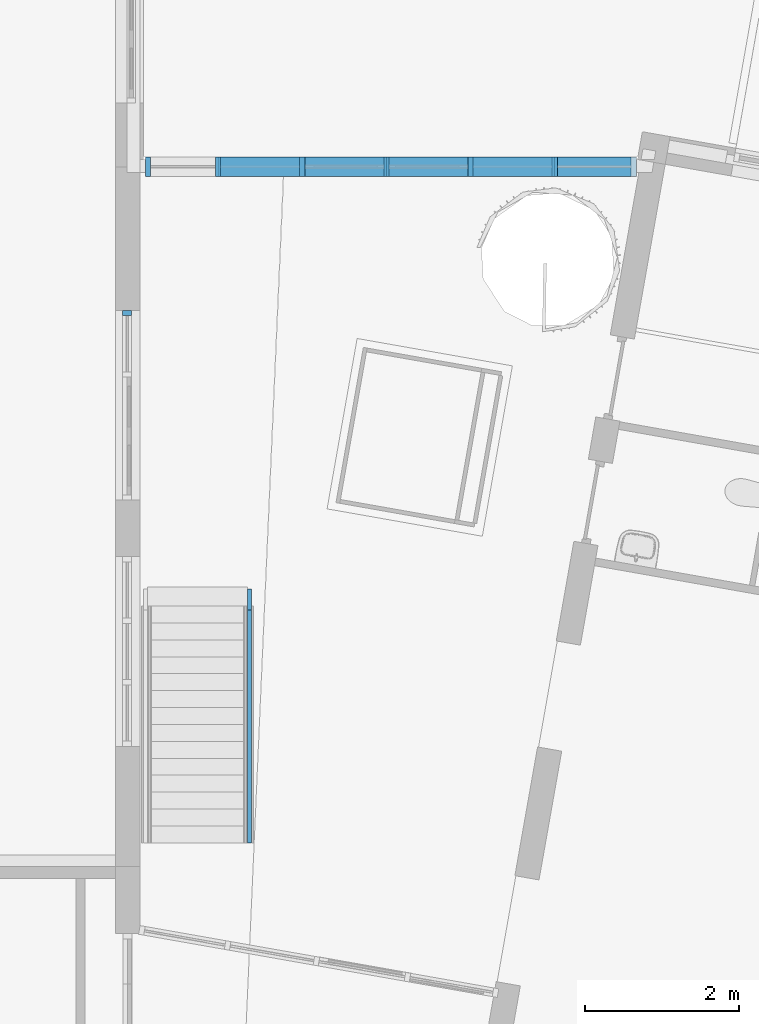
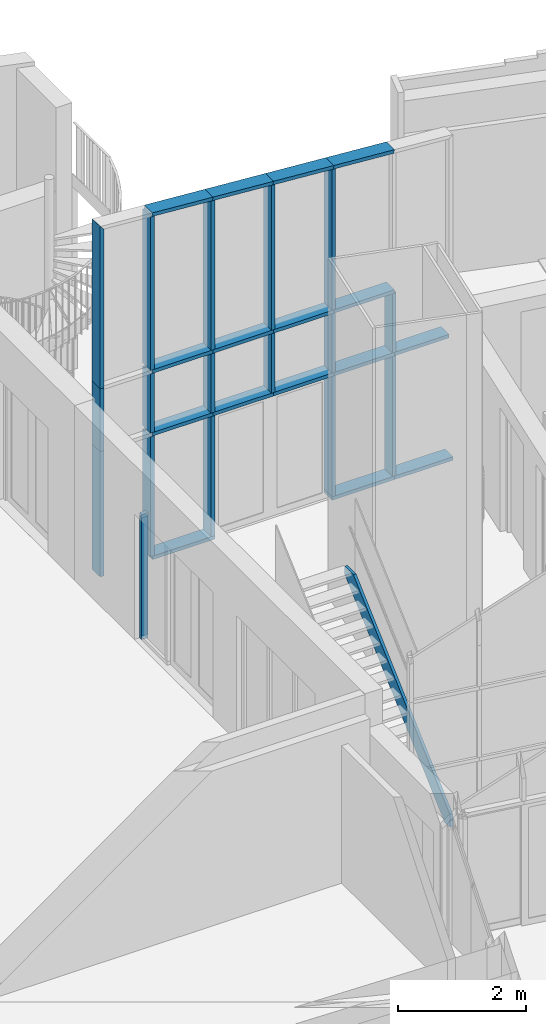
# One storey, part 5 of 21: 35 members, 3 elements without a shape of their own.
"""IFC2X3 building model written with IfcOpenShell, lengths in millimetres."""

from ifc_helpers import new_model, entity, si_unit, converted_unit, derived_unit, direction, frame, origin, origin_2d_with_axis, place, context, subcontext, project, spatial, polyline, rectangle, outline, extrude, clip, halfspace, bounded_halfspace, source, transform, mapped, material, type_object, type_shapes, element, aggregate, save


model = new_model("IFC2X3")

# Units and contexts
model_context = context("Model", 3, precision=0.01, world=origin(), true_north=direction((6.12303176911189e-17, 1.0)))
body_context = subcontext(model_context, "Body", "Model", "MODEL_VIEW")
ifc_project = project(units=[si_unit("LENGTHUNIT", "METRE", prefix="MILLI"), si_unit("AREAUNIT", "SQUARE_METRE"), si_unit("VOLUMEUNIT", "CUBIC_METRE"), converted_unit("PLANEANGLEUNIT", "DEGREE", entity("IfcRatioMeasure", 0.0174532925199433), si_unit("PLANEANGLEUNIT", "RADIAN"), dimensions=[0, 0, 0, 0, 0, 0, 0]), si_unit("MASSUNIT", "GRAM", prefix="KILO"), derived_unit("MASSDENSITYUNIT", [(si_unit("MASSUNIT", "GRAM", prefix="KILO"), 1), (si_unit("LENGTHUNIT", "METRE"), -3)]), si_unit("TIMEUNIT", "SECOND"), si_unit("FREQUENCYUNIT", "HERTZ"), si_unit("THERMODYNAMICTEMPERATUREUNIT", "DEGREE_CELSIUS"), derived_unit("THERMALTRANSMITTANCEUNIT", [(si_unit("MASSUNIT", "GRAM", prefix="KILO"), 1), (si_unit("THERMODYNAMICTEMPERATUREUNIT", "KELVIN"), -1), (si_unit("TIMEUNIT", "SECOND"), -3)]), derived_unit("VOLUMETRICFLOWRATEUNIT", [(si_unit("LENGTHUNIT", "METRE"), 3), (si_unit("TIMEUNIT", "SECOND"), -1)]), si_unit("ELECTRICCURRENTUNIT", "AMPERE"), si_unit("ELECTRICVOLTAGEUNIT", "VOLT"), si_unit("POWERUNIT", "WATT"), si_unit("FORCEUNIT", "NEWTON", prefix="KILO"), si_unit("ILLUMINANCEUNIT", "LUX"), si_unit("LUMINOUSFLUXUNIT", "LUMEN"), si_unit("LUMINOUSINTENSITYUNIT", "CANDELA"), derived_unit("USERDEFINED", [(si_unit("MASSUNIT", "GRAM", prefix="KILO"), -1), (si_unit("LENGTHUNIT", "METRE"), -2), (si_unit("TIMEUNIT", "SECOND"), 3), (si_unit("LUMINOUSFLUXUNIT", "LUMEN"), 1)]), derived_unit("LINEARVELOCITYUNIT", [(si_unit("LENGTHUNIT", "METRE"), 1), (si_unit("TIMEUNIT", "SECOND"), -1)]), si_unit("PRESSUREUNIT", "PASCAL"), derived_unit("USERDEFINED", [(si_unit("LENGTHUNIT", "METRE"), -2), (si_unit("MASSUNIT", "GRAM", prefix="KILO"), 1), (si_unit("TIMEUNIT", "SECOND"), -2)])], contexts=[model_context])

# Site, building, storey
site_placement = place(None, origin())
site = spatial("IfcSite", under=ifc_project, at=site_placement, Name="<Kadaster Gemeente>;<Kadaster nummer>;<Kadaster sectie>", CompositionType="ELEMENT")
building_placement = place(site_placement, origin())
building = spatial("IfcBuilding", under=site, at=building_placement, Name="JRCZ Middelburg", CompositionType="ELEMENT")
storey_placement = place(building_placement, origin())
storey = spatial("IfcBuildingStorey", under=building, at=storey_placement, Name="00 begane grond", CompositionType="ELEMENT", Elevation=0.0)

# Stair, member
stair_placement = place(storey_placement, origin())
stair = element("IfcStair", 1, at=stair_placement, inside=storey, Name="Assembled Stair:Stair", ObjectType="Assembled Stair:RBM_ST_houten trap", ShapeType="NOTDEFINED")
ifc_material_1 = material(Name="traphout")
member_type_1 = type_object("IfcMemberType", Name="Stringer:RBM_trapboom hout_300x50", PredefinedType="STRINGER")
member_1_placement = place(stair_placement, origin())
member_1 = element("IfcMember", 2, at=member_1_placement, type_object=member_type_1, material=ifc_material_1, Name="Assembled Stair:Stair:1742392 Stringer 2", ObjectType="Stringer:RBM_trapboom hout_300x50", context=body_context, shape_type="SweptSolid", body=[
    extrude(outline(polyline([(-1634.54613854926, -1514.04896495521), (-1457.91669169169, -1514.04896495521), (1665.45386145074, 1325.37881062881), (1665.45386145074, 1485.95103504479), (1396.10124588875, 1485.95103504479), (-1634.54613854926, -1269.18295080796), (-1634.54613854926, -1514.04896495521)])), frame((18768.0, 11945.153090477, 1514.04896495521), z_axis=(1.0, 0.0, 0.0), x_axis=(0.0, 1.0, 0.0)), (0.0, 0.0, 1.0), 49.9999999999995),
])
aggregate(stair, [member_1])

# Curtain wall, members
curtain_wall_type_1 = type_object("IfcCurtainWallType", Name="Curtain Wall:NLRS_32_CW_067x114", PredefinedType="NOTDEFINED")
curtain_wall_1_placement = place(storey_placement, origin())
curtain_wall_1 = element("IfcCurtainWall", 3, at=curtain_wall_1_placement, inside=storey, type_object=curtain_wall_type_1, Name="Curtain Wall:NLRS_32_CW_067x114", ObjectType="Curtain Wall:NLRS_32_CW_067x114")
ifc_material_2 = material(Name="RBM_i2_binnenkozijn")
member_type_2 = type_object("IfcMemberType", Name="32_CWM_067x114", PredefinedType="MEMBER")
shared_shape_1 = source(origin(), body_context, "Body", "SweptSolid", [
    extrude(rectangle(XDim=113.999999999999, YDim=67.0, at=origin_2d_with_axis()), frame((-33.5, 0.0, -2400.0), z_axis=(0.0, 0.0, 1.0), x_axis=(0.0, -1.0, 0.0)), (0.0, 0.0, 1.0), 2400.0),
])
type_shapes(member_type_2, [shared_shape_1])
member_2_placement = place(storey_placement, frame((17203.0, 17233.4999996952, 0.0), z_axis=(0.0, 0.0, -1.0), x_axis=(0.0, 1.0, 0.0)))
member_2 = element("IfcMember", 4, at=member_2_placement, type_object=member_type_2, material=ifc_material_2, Name="Rectangular Mullion:32_CWM_067x114", ObjectType="Rectangular Mullion:32_CWM_067x114", context=body_context, shape_type="MappedRepresentation", body=[
    mapped(shared_shape_1, transform((0.0, 0.0, 0.0), scale=1.0)),
])
member_type_3 = type_object("IfcMemberType", Name="32_CWM_067x114", PredefinedType="MEMBER")
shared_shape_2 = source(origin(), body_context, "Body", "SweptSolid", [
    extrude(rectangle(XDim=113.999999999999, YDim=67.0, at=origin_2d_with_axis()), frame((0.0, 0.0, -2266.0), z_axis=(0.0, 0.0, 1.0), x_axis=(0.0, -1.0, 0.0)), (0.0, 0.0, 1.0), 2266.0),
])
type_shapes(member_type_3, [shared_shape_2])
member_3_placement = place(storey_placement, frame((17203.0, 17200.0, 67.0), z_axis=(0.0, 0.0, -1.0), x_axis=(0.0, 1.0, 0.0)))
member_3 = element("IfcMember", 5, at=member_3_placement, type_object=member_type_3, material=ifc_material_2, Name="Rectangular Mullion:32_CWM_067x114", ObjectType="Rectangular Mullion:32_CWM_067x114", context=body_context, shape_type="MappedRepresentation", body=[
    mapped(shared_shape_2, transform((0.0, 0.0, 0.0), scale=1.0)),
])
aggregate(curtain_wall_1, [member_2, member_3])

curtain_wall_type_2 = type_object("IfcCurtainWallType", Name="Curtain Wall:Vliesgevel C", PredefinedType="NOTDEFINED")
curtain_wall_2_placement = place(storey_placement, origin())
curtain_wall_2 = element("IfcCurtainWall", 6, at=curtain_wall_2_placement, inside=storey, type_object=curtain_wall_type_2, Name="Curtain Wall:Vliesgevel C", ObjectType="Curtain Wall:Vliesgevel C")
ifc_material_3 = material(Name="RBM_a_kozijn licht")
member_type_4 = type_object("IfcMemberType", Name="31_CWM_067x114 vliesgevel", PredefinedType="MEMBER")
shared_shape_3 = source(origin(), body_context, "Body", "SweptSolid", [
    extrude(rectangle(XDim=250.0, YDim=67.0, at=origin_2d_with_axis()), frame((0.0, -57.0, -2299.5), z_axis=(0.0, 0.0, 1.0), x_axis=(0.0, -1.0, 0.0)), (0.0, 0.0, 1.0), 2299.5),
])
type_shapes(member_type_4, [shared_shape_3])
member_4_placement = place(storey_placement, frame((19481.1567335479, 19046.62338787, 67.0), z_axis=(0.0, 0.0, -1.0), x_axis=(1.0, 0.0, 0.0)))
member_4 = element("IfcMember", 7, at=member_4_placement, type_object=member_type_4, material=ifc_material_3, Name="Rectangular Mullion:31_CWM_067x114 vliesgevel", ObjectType="Rectangular Mullion:31_CWM_067x114 vliesgevel", context=body_context, shape_type="MappedRepresentation", body=[
    mapped(shared_shape_3, transform((0.0, 0.0, 0.0), scale=1.0)),
])
member_5_placement = place(storey_placement, frame((18386.4296349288, 19046.62338787, 67.0), z_axis=(0.0, 0.0, -1.0), x_axis=(1.0, 0.0, 0.0)))
member_5 = element("IfcMember", 8, at=member_5_placement, type_object=member_type_4, material=ifc_material_3, Name="Rectangular Mullion:31_CWM_067x114 vliesgevel", ObjectType="Rectangular Mullion:31_CWM_067x114 vliesgevel", context=body_context, shape_type="MappedRepresentation", body=[
    mapped(shared_shape_3, transform((0.0, 0.0, 0.0), scale=1.0)),
])
member_6_placement = place(storey_placement, frame((21670.6109307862, 19046.62338787, 67.0), z_axis=(0.0, 0.0, -1.0), x_axis=(1.0, 0.0, 0.0)))
member_6 = element("IfcMember", 9, at=member_6_placement, type_object=member_type_4, material=ifc_material_3, Name="Rectangular Mullion:31_CWM_067x114 vliesgevel", ObjectType="Rectangular Mullion:31_CWM_067x114 vliesgevel", context=body_context, shape_type="MappedRepresentation", body=[
    mapped(shared_shape_3, transform((0.0, 0.0, 0.0), scale=1.0)),
])
member_7_placement = place(storey_placement, frame((22765.3380294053, 19046.62338787, 67.0), z_axis=(0.0, 0.0, -1.0), x_axis=(1.0, 0.0, 0.0)))
member_7 = element("IfcMember", 10, at=member_7_placement, type_object=member_type_4, material=ifc_material_3, Name="Rectangular Mullion:31_CWM_067x114 vliesgevel", ObjectType="Rectangular Mullion:31_CWM_067x114 vliesgevel", context=body_context, shape_type="MappedRepresentation", body=[
    mapped(shared_shape_3, transform((0.0, 0.0, 0.0), scale=1.0)),
])
member_type_5 = type_object("IfcMemberType", Name="31_CWM_067x114 vliesgevel", PredefinedType="MEMBER")
shared_shape_4 = source(origin(), body_context, "Body", "SweptSolid", [
    extrude(rectangle(XDim=250.0, YDim=67.0, at=origin_2d_with_axis()), frame((-33.5, -57.0, -1128.22709861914), z_axis=(0.0, 0.0, 1.0), x_axis=(0.0, -1.0, 0.0)), (0.0, 0.0, 1.0), 1128.22709861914),
])
type_shapes(member_type_5, [shared_shape_4])
member_8_placement = place(storey_placement, frame((18386.4296349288, 19046.62338787, 0.0), z_axis=(-1.0, 0.0, 0.0), x_axis=(0.0, 0.0, -1.0)))
member_8 = element("IfcMember", 11, at=member_8_placement, type_object=member_type_5, material=ifc_material_3, Name="Rectangular Mullion:31_CWM_067x114 vliesgevel", ObjectType="Rectangular Mullion:31_CWM_067x114 vliesgevel", context=body_context, shape_type="MappedRepresentation", body=[
    mapped(shared_shape_4, transform((0.0, 0.0, 0.0), scale=1.0)),
])
member_type_6 = type_object("IfcMemberType", Name="31_CWM_067x114 vliesgevel", PredefinedType="MEMBER")
shared_shape_5 = source(origin(), body_context, "Body", "SweptSolid", [
    extrude(rectangle(XDim=250.0, YDim=67.0, at=origin_2d_with_axis()), frame((-33.5, -57.0, -1128.22709861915), z_axis=(0.0, 0.0, 1.0), x_axis=(0.0, -1.0, 0.0)), (0.0, 0.0, 1.0), 1128.22709861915),
])
type_shapes(member_type_6, [shared_shape_5])
member_9_placement = place(storey_placement, frame((21637.1109307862, 19046.62338787, 0.0), z_axis=(-1.0, 0.0, 0.0), x_axis=(0.0, 0.0, -1.0)))
member_9 = element("IfcMember", 12, at=member_9_placement, type_object=member_type_6, material=ifc_material_3, Name="Rectangular Mullion:31_CWM_067x114 vliesgevel", ObjectType="Rectangular Mullion:31_CWM_067x114 vliesgevel", context=body_context, shape_type="MappedRepresentation", body=[
    mapped(shared_shape_5, transform((0.0, 0.0, 0.0), scale=1.0)),
])
member_type_7 = type_object("IfcMemberType", Name="31_CWM_067x114 vliesgevel", PredefinedType="MEMBER")
shared_shape_6 = source(origin(), body_context, "Body", "SweptSolid", [
    extrude(rectangle(XDim=250.0, YDim=67.0, at=origin_2d_with_axis()), frame((-33.5, -57.0, -1059.60384909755), z_axis=(0.0, 0.0, 1.0), x_axis=(0.0, -1.0, 0.0)), (0.0, 0.0, 1.0), 1059.60384909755),
])
type_shapes(member_type_7, [shared_shape_6])
member_10_placement = place(storey_placement, frame((22765.3380294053, 19046.62338787, 0.0), z_axis=(-1.0, 0.0, 0.0), x_axis=(0.0, 0.0, -1.0)))
member_10 = element("IfcMember", 13, at=member_10_placement, type_object=member_type_7, material=ifc_material_3, Name="Rectangular Mullion:31_CWM_067x114 vliesgevel", ObjectType="Rectangular Mullion:31_CWM_067x114 vliesgevel", context=body_context, shape_type="MappedRepresentation", body=[
    mapped(shared_shape_6, transform((0.0, 0.0, 0.0), scale=1.0)),
])
member_type_8 = type_object("IfcMemberType", Name="31_CWM_067x114 vliesgevel", PredefinedType="MEMBER")
shared_shape_7 = source(origin(), body_context, "Body", "SweptSolid", [
    extrude(rectangle(XDim=250.0, YDim=67.0, at=origin_2d_with_axis()), frame((0.0, -57.0, -1094.72709861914), z_axis=(0.0, 0.0, 1.0), x_axis=(0.0, -1.0, 0.0)), (0.0, 0.0, 1.0), 1094.72709861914),
])
type_shapes(member_type_8, [shared_shape_7])
member_11_placement = place(storey_placement, frame((19481.1567335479, 19046.62338787, 2400.0), z_axis=(1.0, 0.0, 0.0), x_axis=(0.0, 0.0, 1.0)))
member_11 = element("IfcMember", 14, at=member_11_placement, type_object=member_type_8, material=ifc_material_3, Name="Rectangular Mullion:31_CWM_067x114 vliesgevel", ObjectType="Rectangular Mullion:31_CWM_067x114 vliesgevel", context=body_context, shape_type="MappedRepresentation", body=[
    mapped(shared_shape_7, transform((0.0, 0.0, 0.0), scale=1.0)),
])
member_12_placement = place(storey_placement, frame((20575.883832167, 19046.62338787, 2400.0), z_axis=(1.0, 0.0, 0.0), x_axis=(0.0, 0.0, 1.0)))
member_12 = element("IfcMember", 15, at=member_12_placement, type_object=member_type_8, material=ifc_material_3, Name="Rectangular Mullion:31_CWM_067x114 vliesgevel", ObjectType="Rectangular Mullion:31_CWM_067x114 vliesgevel", context=body_context, shape_type="MappedRepresentation", body=[
    mapped(shared_shape_7, transform((0.0, 0.0, 0.0), scale=1.0)),
])
member_13_placement = place(storey_placement, frame((21670.6109307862, 19046.62338787, 2400.0), z_axis=(1.0, 0.0, 0.0), x_axis=(0.0, 0.0, 1.0)))
member_13 = element("IfcMember", 16, at=member_13_placement, type_object=member_type_8, material=ifc_material_3, Name="Rectangular Mullion:31_CWM_067x114 vliesgevel", ObjectType="Rectangular Mullion:31_CWM_067x114 vliesgevel", context=body_context, shape_type="MappedRepresentation", body=[
    mapped(shared_shape_7, transform((0.0, 0.0, 0.0), scale=1.0)),
])
member_14_placement = place(storey_placement, frame((22765.3380294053, 19046.62338787, 2400.0), z_axis=(1.0, 0.0, 0.0), x_axis=(0.0, 0.0, 1.0)))
member_14 = element("IfcMember", 17, at=member_14_placement, type_object=member_type_8, material=ifc_material_3, Name="Rectangular Mullion:31_CWM_067x114 vliesgevel", ObjectType="Rectangular Mullion:31_CWM_067x114 vliesgevel", context=body_context, shape_type="MappedRepresentation", body=[
    mapped(shared_shape_7, transform((0.0, 0.0, 0.0), scale=1.0)),
])
member_15_placement = place(storey_placement, frame((19481.1567335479, 19046.62338787, 3600.0), z_axis=(1.0, 0.0, 0.0), x_axis=(0.0, 0.0, 1.0)))
member_15 = element("IfcMember", 18, at=member_15_placement, type_object=member_type_8, material=ifc_material_3, Name="Rectangular Mullion:31_CWM_067x114 vliesgevel", ObjectType="Rectangular Mullion:31_CWM_067x114 vliesgevel", context=body_context, shape_type="MappedRepresentation", body=[
    mapped(shared_shape_7, transform((0.0, 0.0, 0.0), scale=1.0)),
])
member_16_placement = place(storey_placement, frame((21670.6109307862, 19046.62338787, 3600.0), z_axis=(1.0, 0.0, 0.0), x_axis=(0.0, 0.0, 1.0)))
member_16 = element("IfcMember", 19, at=member_16_placement, type_object=member_type_8, material=ifc_material_3, Name="Rectangular Mullion:31_CWM_067x114 vliesgevel", ObjectType="Rectangular Mullion:31_CWM_067x114 vliesgevel", context=body_context, shape_type="MappedRepresentation", body=[
    mapped(shared_shape_7, transform((0.0, 0.0, 0.0), scale=1.0)),
])
member_17_placement = place(storey_placement, frame((22765.3380294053, 19046.62338787, 3600.0), z_axis=(1.0, 0.0, 0.0), x_axis=(0.0, 0.0, 1.0)))
member_17 = element("IfcMember", 20, at=member_17_placement, type_object=member_type_8, material=ifc_material_3, Name="Rectangular Mullion:31_CWM_067x114 vliesgevel", ObjectType="Rectangular Mullion:31_CWM_067x114 vliesgevel", context=body_context, shape_type="MappedRepresentation", body=[
    mapped(shared_shape_7, transform((0.0, 0.0, 0.0), scale=1.0)),
])
member_18_placement = place(storey_placement, frame((20575.883832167, 19046.62338787, 3600.0), z_axis=(1.0, 0.0, 0.0), x_axis=(0.0, 0.0, 1.0)))
member_18 = element("IfcMember", 21, at=member_18_placement, type_object=member_type_8, material=ifc_material_3, Name="Rectangular Mullion:31_CWM_067x114 vliesgevel", ObjectType="Rectangular Mullion:31_CWM_067x114 vliesgevel", context=body_context, shape_type="MappedRepresentation", body=[
    mapped(shared_shape_7, transform((0.0, 0.0, 0.0), scale=1.0)),
])
member_type_9 = type_object("IfcMemberType", Name="31_CWM_067x114 vliesgevel", PredefinedType="MEMBER")
shared_shape_8 = source(origin(), body_context, "Body", "SweptSolid", [
    extrude(rectangle(XDim=250.0, YDim=67.0, at=origin_2d_with_axis()), frame((0.0, -57.0, -992.603849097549), z_axis=(0.0, 0.0, 1.0), x_axis=(0.0, -1.0, 0.0)), (0.0, 0.0, 1.0), 992.603849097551),
])
type_shapes(member_type_9, [shared_shape_8])
member_19_placement = place(storey_placement, frame((23757.9418785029, 19046.62338787, 2400.0), z_axis=(1.0, 0.0, 0.0), x_axis=(0.0, 0.0, 1.0)))
member_19 = element("IfcMember", 22, at=member_19_placement, type_object=member_type_9, material=ifc_material_3, Name="Rectangular Mullion:31_CWM_067x114 vliesgevel", ObjectType="Rectangular Mullion:31_CWM_067x114 vliesgevel", context=body_context, shape_type="MappedRepresentation", body=[
    mapped(shared_shape_8, transform((0.0, 0.0, 0.0), scale=1.0)),
])
member_type_10 = type_object("IfcMemberType", Name="31_CWM_067x114 vliesgevel", PredefinedType="MEMBER")
shared_shape_9 = source(origin(), body_context, "Body", "SweptSolid", [
    extrude(rectangle(XDim=250.0, YDim=67.0, at=origin_2d_with_axis()), frame((0.0, -57.0, -1133.0), z_axis=(0.0, 0.0, 1.0), x_axis=(0.0, -1.0, 0.0)), (0.0, 0.0, 1.0), 1133.0),
])
type_shapes(member_type_10, [shared_shape_9])
member_20_placement = place(storey_placement, frame((18386.4296349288, 19046.62338787, 2433.5), z_axis=(0.0, 0.0, -1.0), x_axis=(1.0, 0.0, 0.0)))
member_20 = element("IfcMember", 23, at=member_20_placement, type_object=member_type_10, material=ifc_material_3, Name="Rectangular Mullion:31_CWM_067x114 vliesgevel", ObjectType="Rectangular Mullion:31_CWM_067x114 vliesgevel", context=body_context, shape_type="MappedRepresentation", body=[
    mapped(shared_shape_9, transform((0.0, 0.0, 0.0), scale=1.0)),
])
member_21_placement = place(storey_placement, frame((19481.1567335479, 19046.62338787, 2433.5), z_axis=(0.0, 0.0, -1.0), x_axis=(1.0, 0.0, 0.0)))
member_21 = element("IfcMember", 24, at=member_21_placement, type_object=member_type_10, material=ifc_material_3, Name="Rectangular Mullion:31_CWM_067x114 vliesgevel", ObjectType="Rectangular Mullion:31_CWM_067x114 vliesgevel", context=body_context, shape_type="MappedRepresentation", body=[
    mapped(shared_shape_9, transform((0.0, 0.0, 0.0), scale=1.0)),
])
member_22_placement = place(storey_placement, frame((20575.883832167, 19046.62338787, 2433.5), z_axis=(0.0, 0.0, -1.0), x_axis=(1.0, 0.0, 0.0)))
member_22 = element("IfcMember", 25, at=member_22_placement, type_object=member_type_10, material=ifc_material_3, Name="Rectangular Mullion:31_CWM_067x114 vliesgevel", ObjectType="Rectangular Mullion:31_CWM_067x114 vliesgevel", context=body_context, shape_type="MappedRepresentation", body=[
    mapped(shared_shape_9, transform((0.0, 0.0, 0.0), scale=1.0)),
])
member_23_placement = place(storey_placement, frame((21670.6109307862, 19046.62338787, 2433.5), z_axis=(0.0, 0.0, -1.0), x_axis=(1.0, 0.0, 0.0)))
member_23 = element("IfcMember", 26, at=member_23_placement, type_object=member_type_10, material=ifc_material_3, Name="Rectangular Mullion:31_CWM_067x114 vliesgevel", ObjectType="Rectangular Mullion:31_CWM_067x114 vliesgevel", context=body_context, shape_type="MappedRepresentation", body=[
    mapped(shared_shape_9, transform((0.0, 0.0, 0.0), scale=1.0)),
])
member_24_placement = place(storey_placement, frame((22765.3380294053, 19046.62338787, 2433.5), z_axis=(0.0, 0.0, -1.0), x_axis=(1.0, 0.0, 0.0)))
member_24 = element("IfcMember", 27, at=member_24_placement, type_object=member_type_10, material=ifc_material_3, Name="Rectangular Mullion:31_CWM_067x114 vliesgevel", ObjectType="Rectangular Mullion:31_CWM_067x114 vliesgevel", context=body_context, shape_type="MappedRepresentation", body=[
    mapped(shared_shape_9, transform((0.0, 0.0, 0.0), scale=1.0)),
])
member_type_11 = type_object("IfcMemberType", Name="31_CWM_067x114 vliesgevel", PredefinedType="MEMBER")
shared_shape_10 = source(origin(), body_context, "Body", "Clipping", [
    clip(clip(extrude(rectangle(XDim=250.0, YDim=67.0, at=origin_2d_with_axis()), frame((0.0, -57.0, -2776.99208545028), z_axis=(0.0, 0.0, 1.0), x_axis=(0.0, -1.0, 0.0)), (0.0, 0.0, 1.0), 2776.99208545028), bounded_halfspace(frame((-4.9352155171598, 68.0, -2774.88227385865), z_axis=(0.0736599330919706, 0.0, -0.997283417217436), x_axis=(-0.997283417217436, 0.0, -0.0736599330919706)), False, frame((0.0, -57.0, -2776.99208545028), z_axis=(0.0, 0.0, 1.0), x_axis=(0.0, -1.0, 0.0)), polyline([(125.0, -4.93521551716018), (125.0, -33.5), (-125.0, -33.5), (-125.0, -4.93521551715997), (125.0, -4.93521551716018)]))), bounded_halfspace(frame((1089.79188310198, 68.0, -2694.02509379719), z_axis=(0.0736599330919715, 0.0, -0.997283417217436), x_axis=(-0.997283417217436, 0.0, -0.0736599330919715)), False, frame((0.0, -57.0, -2776.99208545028), z_axis=(0.0, 0.0, 1.0), x_axis=(0.0, -1.0, 0.0)), polyline([(-125.0, 33.5), (125.0, 33.5), (125.0, -4.93521551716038), (-125.0, -4.9352155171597), (-125.0, 33.5)]))),
])
type_shapes(member_type_11, [shared_shape_10])
member_25_placement = place(storey_placement, frame((20575.883832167, 19046.62338787, 3633.5), z_axis=(0.0, 0.0, -1.0), x_axis=(1.0, 0.0, 0.0)))
member_25 = element("IfcMember", 28, at=member_25_placement, type_object=member_type_11, material=ifc_material_3, Name="Rectangular Mullion:31_CWM_067x114 vliesgevel", ObjectType="Rectangular Mullion:31_CWM_067x114 vliesgevel", context=body_context, shape_type="MappedRepresentation", body=[
    mapped(shared_shape_10, transform((0.0, 0.0, 0.0), scale=1.0)),
])
member_type_12 = type_object("IfcMemberType", Name="31_CWM_067x114 vliesgevel", PredefinedType="MEMBER")
shared_shape_11 = source(origin(), body_context, "Body", "Clipping", [
    clip(clip(extrude(rectangle(XDim=250.0, YDim=67.0, at=origin_2d_with_axis()), frame((0.0, -57.0, -2696.13490538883), z_axis=(0.0, 0.0, 1.0), x_axis=(0.0, -1.0, 0.0)), (0.0, 0.0, 1.0), 2696.13490538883), bounded_halfspace(frame((-4.93521551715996, 68.0, -2694.02509379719), z_axis=(0.0736599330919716, 0.0, -0.997283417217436), x_axis=(-0.997283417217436, 0.0, -0.0736599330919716)), False, frame((0.0, -57.0, -2696.13490538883), z_axis=(0.0, 0.0, 1.0), x_axis=(0.0, -1.0, 0.0)), polyline([(125.0, -4.93521551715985), (125.0, -33.5), (-125.0, -33.5), (-125.0, -4.93521551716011), (125.0, -4.93521551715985)]))), bounded_halfspace(frame((1089.79188310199, 68.0, -2613.16791373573), z_axis=(0.0736599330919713, 0.0, -0.997283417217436), x_axis=(-0.997283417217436, 0.0, -0.0736599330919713)), False, frame((0.0, -57.0, -2696.13490538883), z_axis=(0.0, 0.0, 1.0), x_axis=(0.0, -1.0, 0.0)), polyline([(-125.0, 33.5), (125.0, 33.5), (125.0, -4.93521551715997), (-125.0, -4.93521551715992), (-125.0, 33.5)]))),
])
type_shapes(member_type_12, [shared_shape_11])
member_26_placement = place(storey_placement, frame((21670.6109307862, 19046.62338787, 3633.5), z_axis=(0.0, 0.0, -1.0), x_axis=(1.0, 0.0, 0.0)))
member_26 = element("IfcMember", 29, at=member_26_placement, type_object=member_type_12, material=ifc_material_3, Name="Rectangular Mullion:31_CWM_067x114 vliesgevel", ObjectType="Rectangular Mullion:31_CWM_067x114 vliesgevel", context=body_context, shape_type="MappedRepresentation", body=[
    mapped(shared_shape_11, transform((0.0, 0.0, 0.0), scale=1.0)),
])
member_type_13 = type_object("IfcMemberType", Name="31_CWM_067x114 vliesgevel", PredefinedType="MEMBER")
shared_shape_12 = source(origin(), body_context, "Body", "Clipping", [
    clip(extrude(rectangle(XDim=250.0, YDim=67.0, at=origin_2d_with_axis()), frame((-33.5, -57.0, -3106.82275898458), z_axis=(0.0, 0.0, 1.0), x_axis=(0.0, -1.0, 0.0)), (0.0, 0.0, 1.0), 3106.82275898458), halfspace(frame((0.0, -304.8, 0.0), z_axis=(-0.732686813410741, 0.0, 0.680565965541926), x_axis=(-0.680565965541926, 0.0, -0.732686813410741)), False)),
])
type_shapes(member_type_13, [shared_shape_12])
member_27_placement = place(storey_placement, frame((17439.9418785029, 19046.62338787, 6706.82275898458), z_axis=(0.0, 0.0, 1.0), x_axis=(-1.0, 0.0, 0.0)))
member_27 = element("IfcMember", 30, at=member_27_placement, type_object=member_type_13, material=ifc_material_3, Name="Rectangular Mullion:31_CWM_067x114 vliesgevel", ObjectType="Rectangular Mullion:31_CWM_067x114 vliesgevel", context=body_context, shape_type="MappedRepresentation", body=[
    mapped(shared_shape_12, transform((0.0, 0.0, 0.0), scale=1.0)),
])
member_type_14 = type_object("IfcMemberType", Name="31_CWM_067x114 vliesgevel", PredefinedType="MEMBER")
shared_shape_13 = source(origin(), body_context, "Body", "SweptSolid", [
    extrude(rectangle(XDim=250.0, YDim=67.0, at=origin_2d_with_axis()), frame((-33.5, -57.0, -2400.0), z_axis=(0.0, 0.0, 1.0), x_axis=(0.0, -1.0, 0.0)), (0.0, 0.0, 1.0), 2400.0),
])
type_shapes(member_type_14, [shared_shape_13])
member_28_placement = place(storey_placement, frame((17439.9418785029, 19046.62338787, 2400.0), z_axis=(0.0, 0.0, 1.0), x_axis=(-1.0, 0.0, 0.0)))
member_28 = element("IfcMember", 31, at=member_28_placement, type_object=member_type_14, material=ifc_material_3, Name="Rectangular Mullion:31_CWM_067x114 vliesgevel", ObjectType="Rectangular Mullion:31_CWM_067x114 vliesgevel", context=body_context, shape_type="MappedRepresentation", body=[
    mapped(shared_shape_13, transform((0.0, 0.0, 0.0), scale=1.0)),
])
member_type_15 = type_object("IfcMemberType", Name="31_CWM_067x114 vliesgevel", PredefinedType="MEMBER")
shared_shape_14 = source(origin(), body_context, "Body", "SweptSolid", [
    extrude(rectangle(XDim=250.0, YDim=67.0, at=origin_2d_with_axis()), frame((-33.5, -57.0, -1200.0), z_axis=(0.0, 0.0, 1.0), x_axis=(0.0, -1.0, 0.0)), (0.0, 0.0, 1.0), 1200.0),
])
type_shapes(member_type_15, [shared_shape_14])
member_29_placement = place(storey_placement, frame((17439.9418785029, 19046.62338787, 3600.0), z_axis=(0.0, 0.0, 1.0), x_axis=(-1.0, 0.0, 0.0)))
member_29 = element("IfcMember", 32, at=member_29_placement, type_object=member_type_15, material=ifc_material_3, Name="Rectangular Mullion:31_CWM_067x114 vliesgevel", ObjectType="Rectangular Mullion:31_CWM_067x114 vliesgevel", context=body_context, shape_type="MappedRepresentation", body=[
    mapped(shared_shape_14, transform((0.0, 0.0, 0.0), scale=1.0)),
])
member_type_16 = type_object("IfcMemberType", Name="31_CWM_067x114 vliesgevel", PredefinedType="MEMBER")
shared_shape_15 = source(origin(), body_context, "Body", "Clipping", [
    clip(clip(extrude(rectangle(XDim=250.0, YDim=67.0, at=origin_2d_with_axis()), frame((0.0, -57.0, -2938.70644557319), z_axis=(0.0, 0.0, 1.0), x_axis=(0.0, -1.0, 0.0)), (0.0, 0.0, 1.0), 2938.70644557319), bounded_halfspace(frame((-4.93521551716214, 68.0, -2936.59663398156), z_axis=(0.0736599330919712, 0.0, -0.997283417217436), x_axis=(-0.997283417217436, 0.0, -0.0736599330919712)), False, frame((0.0, -57.0, -2938.70644557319), z_axis=(0.0, 0.0, 1.0), x_axis=(0.0, -1.0, 0.0)), polyline([(125.0, -4.93521551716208), (125.0, -33.5), (-125.0, -33.5), (-125.0, -4.93521551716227), (125.0, -4.93521551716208)]))), bounded_halfspace(frame((1089.79188310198, 68.0, -2855.7394539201), z_axis=(0.0736599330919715, 0.0, -0.997283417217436), x_axis=(-0.997283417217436, 0.0, -0.0736599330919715)), False, frame((0.0, -57.0, -2938.70644557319), z_axis=(0.0, 0.0, 1.0), x_axis=(0.0, -1.0, 0.0)), polyline([(-125.0, 33.5), (125.0, 33.5), (125.0, -4.93521551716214), (-125.0, -4.93521551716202), (-125.0, 33.5)]))),
])
type_shapes(member_type_16, [shared_shape_15])
member_30_placement = place(storey_placement, frame((18386.4296349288, 19046.62338787, 3633.5), z_axis=(0.0, 0.0, -1.0), x_axis=(1.0, 0.0, 0.0)))
member_30 = element("IfcMember", 33, at=member_30_placement, type_object=member_type_16, material=ifc_material_3, Name="Rectangular Mullion:31_CWM_067x114 vliesgevel", ObjectType="Rectangular Mullion:31_CWM_067x114 vliesgevel", context=body_context, shape_type="MappedRepresentation", body=[
    mapped(shared_shape_15, transform((0.0, 0.0, 0.0), scale=1.0)),
])
member_type_17 = type_object("IfcMemberType", Name="31_CWM_067x114 vliesgevel", PredefinedType="MEMBER")
shared_shape_16 = source(origin(), body_context, "Body", "SweptSolid", [
    extrude(rectangle(XDim=250.0, YDim=67.0, at=origin_2d_with_axis()), frame((-33.5, -57.0, -1097.70911630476), z_axis=(0.0, 0.0, 1.0), x_axis=(0.0, -1.0, 0.0)), (0.0, 0.0, 1.0), 1097.70911630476),
])
type_shapes(member_type_17, [shared_shape_16])
member_31_placement = place(storey_placement, frame((20575.883832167, 19046.62338787, 6475.20026281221), z_axis=(0.997283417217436, 0.0, -0.0736599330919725), x_axis=(0.0736599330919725, 0.0, 0.997283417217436)))
member_31 = element("IfcMember", 34, at=member_31_placement, type_object=member_type_17, material=ifc_material_3, Name="Rectangular Mullion:31_CWM_067x114 vliesgevel", ObjectType="Rectangular Mullion:31_CWM_067x114 vliesgevel", context=body_context, shape_type="MappedRepresentation", body=[
    mapped(shared_shape_16, transform((0.0, 0.0, 0.0), scale=1.0)),
])
member_32_placement = place(storey_placement, frame((21670.6109307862, 19046.62338787, 6394.34308275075), z_axis=(0.997283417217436, 0.0, -0.0736599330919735), x_axis=(0.0736599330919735, 0.0, 0.997283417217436)))
member_32 = element("IfcMember", 35, at=member_32_placement, type_object=member_type_17, material=ifc_material_3, Name="Rectangular Mullion:31_CWM_067x114 vliesgevel", ObjectType="Rectangular Mullion:31_CWM_067x114 vliesgevel", context=body_context, shape_type="MappedRepresentation", body=[
    mapped(shared_shape_16, transform((0.0, 0.0, 0.0), scale=1.0)),
])
member_type_18 = type_object("IfcMemberType", Name="31_CWM_067x114 vliesgevel", PredefinedType="MEMBER")
shared_shape_17 = source(origin(), body_context, "Body", "SweptSolid", [
    extrude(rectangle(XDim=250.0, YDim=67.0, at=origin_2d_with_axis()), frame((-33.5, -57.0, -1097.70911630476), z_axis=(0.0, 0.0, 1.0), x_axis=(0.0, -1.0, 0.0)), (0.0, 0.0, 1.0), 1097.70911630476),
])
type_shapes(member_type_18, [shared_shape_17])
member_33_placement = place(storey_placement, frame((19481.1567335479, 19046.62338787, 6556.05744287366), z_axis=(0.997283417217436, 0.0, -0.0736599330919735), x_axis=(0.0736599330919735, 0.0, 0.997283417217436)))
member_33 = element("IfcMember", 36, at=member_33_placement, type_object=member_type_18, material=ifc_material_3, Name="Rectangular Mullion:31_CWM_067x114 vliesgevel", ObjectType="Rectangular Mullion:31_CWM_067x114 vliesgevel", context=body_context, shape_type="MappedRepresentation", body=[
    mapped(shared_shape_17, transform((0.0, 0.0, 0.0), scale=1.0)),
])
member_type_19 = type_object("IfcMemberType", Name="31_CWM_067x114 vliesgevel", PredefinedType="MEMBER")
shared_shape_18 = source(origin(), body_context, "Body", "SweptSolid", [
    extrude(rectangle(XDim=250.0, YDim=67.0, at=origin_2d_with_axis()), frame((-33.5, -57.0, -1097.70911630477), z_axis=(0.0, 0.0, 1.0), x_axis=(0.0, -1.0, 0.0)), (0.0, 0.0, 1.0), 1097.70911630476),
])
type_shapes(member_type_19, [shared_shape_18])
member_34_placement = place(storey_placement, frame((22765.3380294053, 19046.62338787, 6313.48590268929), z_axis=(0.997283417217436, 0.0, -0.0736599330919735), x_axis=(0.0736599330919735, 0.0, 0.997283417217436)))
member_34 = element("IfcMember", 37, at=member_34_placement, type_object=member_type_19, material=ifc_material_3, Name="Rectangular Mullion:31_CWM_067x114 vliesgevel", ObjectType="Rectangular Mullion:31_CWM_067x114 vliesgevel", context=body_context, shape_type="MappedRepresentation", body=[
    mapped(shared_shape_18, transform((0.0, 0.0, 0.0), scale=1.0)),
])
member_type_20 = type_object("IfcMemberType", Name="31_CWM_067x114 vliesgevel", PredefinedType="MEMBER")
shared_shape_19 = source(origin(), body_context, "Body", "Clipping", [
    clip(clip(extrude(rectangle(XDim=250.0, YDim=67.0, at=origin_2d_with_axis()), frame((0.0, -57.0, -2857.84926551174), z_axis=(0.0, 0.0, 1.0), x_axis=(0.0, -1.0, 0.0)), (0.0, 0.0, 1.0), 2857.84926551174), bounded_halfspace(frame((-4.93521551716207, 68.0, -2855.7394539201), z_axis=(0.0736599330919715, 0.0, -0.997283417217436), x_axis=(-0.997283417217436, 0.0, -0.0736599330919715)), False, frame((0.0, -57.0, -2857.84926551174), z_axis=(0.0, 0.0, 1.0), x_axis=(0.0, -1.0, 0.0)), polyline([(125.0, -4.93521551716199), (125.0, -33.5), (-125.0, -33.5), (-125.0, -4.93521551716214), (125.0, -4.93521551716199)]))), bounded_halfspace(frame((1089.79188310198, 68.0, -2774.88227385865), z_axis=(0.0736599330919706, 0.0, -0.997283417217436), x_axis=(-0.997283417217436, 0.0, -0.0736599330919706)), False, frame((0.0, -57.0, -2857.84926551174), z_axis=(0.0, 0.0, 1.0), x_axis=(0.0, -1.0, 0.0)), polyline([(-125.0, 33.5), (125.0, 33.5), (125.0, -4.935215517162), (-125.0, -4.9352155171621), (-125.0, 33.5)]))),
])
type_shapes(member_type_20, [shared_shape_19])
member_35_placement = place(storey_placement, frame((19481.1567335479, 19046.62338787, 3633.5), z_axis=(0.0, 0.0, -1.0), x_axis=(1.0, 0.0, 0.0)))
member_35 = element("IfcMember", 38, at=member_35_placement, type_object=member_type_20, material=ifc_material_3, Name="Rectangular Mullion:31_CWM_067x114 vliesgevel", ObjectType="Rectangular Mullion:31_CWM_067x114 vliesgevel", context=body_context, shape_type="MappedRepresentation", body=[
    mapped(shared_shape_19, transform((0.0, 0.0, 0.0), scale=1.0)),
])
aggregate(curtain_wall_2, [member_4, member_8, member_5, member_9, member_6, member_10, member_7, member_11, member_12, member_13, member_14, member_19, member_20, member_21, member_22, member_23, member_24, member_15, member_16, member_17, member_25, member_26, member_27, member_28, member_29, member_30, member_31, member_33, member_32, member_34, member_18, member_35])

save(model, "model.ifc")
